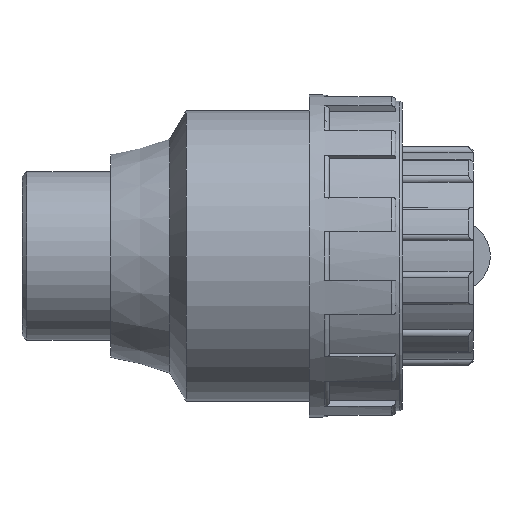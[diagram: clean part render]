
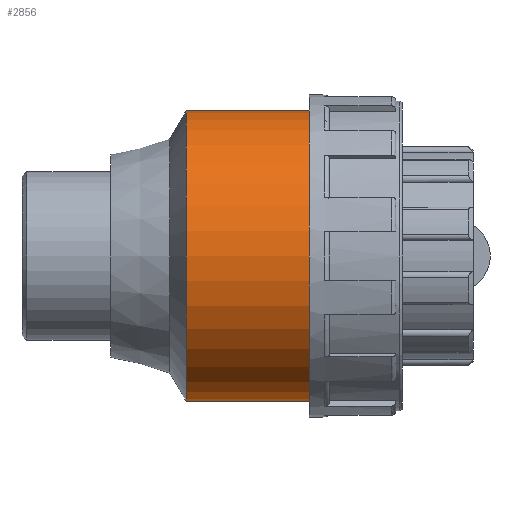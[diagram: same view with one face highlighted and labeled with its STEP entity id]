
A CAD part, front view. The second image highlights one B-rep face of the part: STEP entity #2856.
In plain terms, the highlighted cylindrical face has radius 36 mm (diameter 72 mm), a full revolution.
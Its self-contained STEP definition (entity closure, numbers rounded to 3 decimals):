
#35=FACE_BOUND('',#506,.T.);
#36=FACE_BOUND('',#507,.T.);
#317=FACE_OUTER_BOUND('',#505,.T.);
#505=EDGE_LOOP('',(#2627));
#506=EDGE_LOOP('',(#2628));
#507=EDGE_LOOP('',(#2629));
#699=CIRCLE('',#3209,36.);
#700=CIRCLE('',#3211,36.);
#1051=B_SPLINE_CURVE_WITH_KNOTS('',3,(#4692,#4693,#4694,#4695,#4696,#4697,
#4698,#4699,#4700,#4701,#4702,#4703,#4704,#4705,#4706,#4707,#4708,#4709,
#4710,#4711,#4712,#4713,#4714,#4715,#4716,#4717,#4718,#4719,#4720,#4721,
#4722,#4723,#4724,#4725),.UNSPECIFIED.,.T.,.F.,(4,2,2,2,2,2,2,2,2,2,2,2,
2,2,2,2,4),(0.,0.456,0.912,1.368,1.823,
2.279,2.735,3.191,3.647,4.102,
4.558,5.014,5.47,5.926,6.381,
6.837,7.293),.UNSPECIFIED.);
#1215=VERTEX_POINT('',#4691);
#1374=VERTEX_POINT('',#5633);
#1375=VERTEX_POINT('',#5636);
#1563=EDGE_CURVE('',#1215,#1215,#1051,.T.);
#1794=EDGE_CURVE('',#1374,#1374,#699,.T.);
#1795=EDGE_CURVE('',#1375,#1375,#700,.T.);
#2627=ORIENTED_EDGE('',*,*,#1795,.F.);
#2628=ORIENTED_EDGE('',*,*,#1563,.T.);
#2629=ORIENTED_EDGE('',*,*,#1794,.T.);
#2691=CYLINDRICAL_SURFACE('',#3210,36.);
#2856=ADVANCED_FACE('',(#317,#35,#36),#2691,.T.);
#3209=AXIS2_PLACEMENT_3D('',#5634,#4076,#4077);
#3210=AXIS2_PLACEMENT_3D('',#5635,#4078,#4079);
#3211=AXIS2_PLACEMENT_3D('',#5637,#4080,#4081);
#4076=DIRECTION('center_axis',(1.,0.,0.));
#4077=DIRECTION('ref_axis',(0.,0.,-1.));
#4078=DIRECTION('center_axis',(1.,0.,0.));
#4079=DIRECTION('ref_axis',(0.,1.,0.));
#4080=DIRECTION('center_axis',(1.,0.,0.));
#4081=DIRECTION('ref_axis',(0.,0.,-1.));
#4691=CARTESIAN_POINT('',(0.,33.941,-12.));
#4692=CARTESIAN_POINT('Ctrl Pts',(0.,33.941,-12.));
#4693=CARTESIAN_POINT('Ctrl Pts',(1.52,33.941,-12.));
#4694=CARTESIAN_POINT('Ctrl Pts',(3.132,34.054,-11.694));
#4695=CARTESIAN_POINT('Ctrl Pts',(6.085,34.451,-10.466));
#4696=CARTESIAN_POINT('Ctrl Pts',(7.426,34.729,-9.544));
#4697=CARTESIAN_POINT('Ctrl Pts',(9.544,35.242,-7.427));
#4698=CARTESIAN_POINT('Ctrl Pts',(10.466,35.513,-6.085));
#4699=CARTESIAN_POINT('Ctrl Pts',(11.694,35.894,-3.132));
#4700=CARTESIAN_POINT('Ctrl Pts',(12.,36.,-1.519));
#4701=CARTESIAN_POINT('Ctrl Pts',(12.,36.,1.519));
#4702=CARTESIAN_POINT('Ctrl Pts',(11.694,35.894,3.132));
#4703=CARTESIAN_POINT('Ctrl Pts',(10.466,35.513,6.085));
#4704=CARTESIAN_POINT('Ctrl Pts',(9.544,35.242,7.427));
#4705=CARTESIAN_POINT('Ctrl Pts',(7.426,34.729,9.544));
#4706=CARTESIAN_POINT('Ctrl Pts',(6.085,34.451,10.466));
#4707=CARTESIAN_POINT('Ctrl Pts',(3.132,34.054,11.694));
#4708=CARTESIAN_POINT('Ctrl Pts',(1.52,33.941,12.));
#4709=CARTESIAN_POINT('Ctrl Pts',(-1.52,33.941,12.));
#4710=CARTESIAN_POINT('Ctrl Pts',(-3.132,34.054,11.694));
#4711=CARTESIAN_POINT('Ctrl Pts',(-6.085,34.451,10.466));
#4712=CARTESIAN_POINT('Ctrl Pts',(-7.426,34.729,9.544));
#4713=CARTESIAN_POINT('Ctrl Pts',(-9.544,35.242,7.427));
#4714=CARTESIAN_POINT('Ctrl Pts',(-10.466,35.513,6.085));
#4715=CARTESIAN_POINT('Ctrl Pts',(-11.694,35.894,3.132));
#4716=CARTESIAN_POINT('Ctrl Pts',(-12.,36.,1.519));
#4717=CARTESIAN_POINT('Ctrl Pts',(-12.,36.,-1.519));
#4718=CARTESIAN_POINT('Ctrl Pts',(-11.694,35.894,-3.132));
#4719=CARTESIAN_POINT('Ctrl Pts',(-10.466,35.513,-6.085));
#4720=CARTESIAN_POINT('Ctrl Pts',(-9.544,35.242,-7.427));
#4721=CARTESIAN_POINT('Ctrl Pts',(-7.426,34.729,-9.544));
#4722=CARTESIAN_POINT('Ctrl Pts',(-6.085,34.451,-10.466));
#4723=CARTESIAN_POINT('Ctrl Pts',(-3.132,34.054,-11.694));
#4724=CARTESIAN_POINT('Ctrl Pts',(-1.52,33.941,-12.));
#4725=CARTESIAN_POINT('Ctrl Pts',(0.,33.941,
-12.));
#5633=CARTESIAN_POINT('',(-15.3,36.,0.));
#5634=CARTESIAN_POINT('Origin',(-15.3,0.,0.));
#5635=CARTESIAN_POINT('Origin',(0.,0.,0.));
#5636=CARTESIAN_POINT('',(15.3,36.,0.));
#5637=CARTESIAN_POINT('Origin',(15.3,0.,0.));
